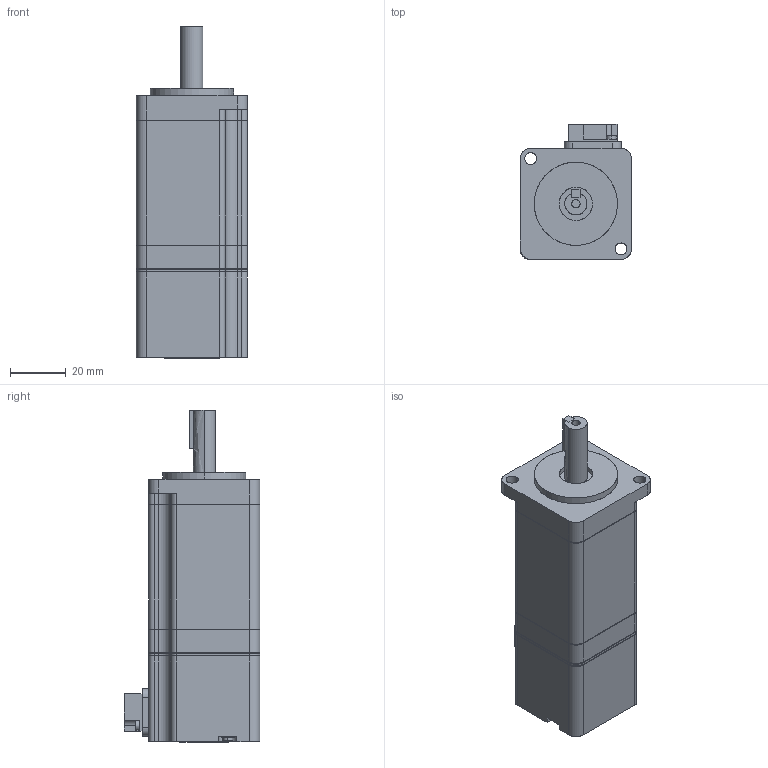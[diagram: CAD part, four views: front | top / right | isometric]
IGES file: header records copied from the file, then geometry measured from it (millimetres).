
Start section: SolidWorks IGES file using analytic representation for surfaces
Global section: file name: C:\YASKAWA\sgmav_c2a_a61.IGS; native system: SolidWorks 2006 by SolidWorks Corporation; preprocessor: SolidWorks 2006 by SolidWorks Corporation; author: yamanouchi; date: 080610.210145; units: millimetre
Bounding box: 40.1 x 48.8 x 119.6 mm (x, y, z)
Surface area: 20117.4 mm2 (no closed solid volume)
Topology: 0 solids, 0 shells, 287 faces, 3865 edges, 3865 vertices
Faces by surface type: bspline 166, revolution 121
